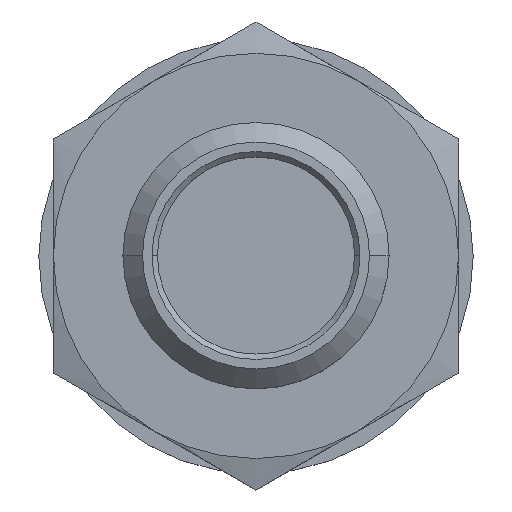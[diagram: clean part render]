
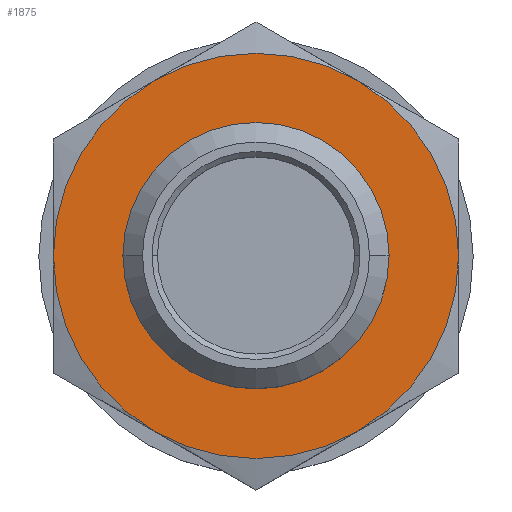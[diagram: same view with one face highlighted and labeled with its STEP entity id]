
A CAD part, top view. The second image highlights one B-rep face of the part: STEP entity #1875.
In plain terms, the highlighted planar face has unit normal (0, 0, 1).
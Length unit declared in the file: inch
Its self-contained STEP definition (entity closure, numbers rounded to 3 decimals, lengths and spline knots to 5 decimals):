
#56 = CARTESIAN_POINT ( 'NONE',  ( -0.105, 0., -0.235 ) ) ;
#79 = AXIS2_PLACEMENT_3D ( 'NONE', #4641, #1681, #5094 ) ;
#420 = EDGE_CURVE ( 'NONE', #5427, #1840, #4870, .T. ) ;
#425 = DIRECTION ( 'NONE',  ( 1., 0., 0. ) ) ;
#476 = DIRECTION ( 'NONE',  ( 0., 0., 1. ) ) ;
#489 = CARTESIAN_POINT ( 'NONE',  ( -0.09375, 0.16238, -0.235 ) ) ;
#500 = AXIS2_PLACEMENT_3D ( 'NONE', #4077, #1067, #4549 ) ;
#562 = CARTESIAN_POINT ( 'NONE',  ( -0.09375, -0.16238, -0.235 ) ) ;
#916 = EDGE_CURVE ( 'NONE', #6058, #2145, #5661, .T. ) ;
#919 = CIRCLE ( 'NONE', #2762, 0.1875 ) ;
#1026 = ORIENTED_EDGE ( 'NONE', *, *, #3295, .T. ) ;
#1060 = CARTESIAN_POINT ( 'NONE',  ( 0.105, 0., -0.235 ) ) ;
#1067 = DIRECTION ( 'NONE',  ( 0., 0., 1. ) ) ;
#1089 = ORIENTED_EDGE ( 'NONE', *, *, #2961, .F. ) ;
#1092 = ORIENTED_EDGE ( 'NONE', *, *, #3075, .T. ) ;
#1256 = CARTESIAN_POINT ( 'NONE',  ( 0., 0., -0.235 ) ) ;
#1390 = VERTEX_POINT ( 'NONE', #2877 ) ;
#1478 = CARTESIAN_POINT ( 'NONE',  ( -0.1875, 0., -0.235 ) ) ;
#1493 = CARTESIAN_POINT ( 'NONE',  ( 0., 0., -0.235 ) ) ;
#1538 = EDGE_LOOP ( 'NONE', ( #4363, #5060, #1092, #4490, #1026, #2965 ) ) ;
#1577 = EDGE_LOOP ( 'NONE', ( #5052, #1089 ) ) ;
#1681 = DIRECTION ( 'NONE',  ( 0., 0., 1. ) ) ;
#1767 = DIRECTION ( 'NONE',  ( 1., 0., 0. ) ) ;
#1840 = VERTEX_POINT ( 'NONE', #56 ) ;
#1863 = DIRECTION ( 'NONE',  ( 0., 0., 1. ) ) ;
#1875 = ADVANCED_FACE ( 'NONE', ( #5002, #3588 ), #6099, .F. ) ;
#2001 = DIRECTION ( 'NONE',  ( 1., 0., 0. ) ) ;
#2145 = VERTEX_POINT ( 'NONE', #489 ) ;
#2249 = DIRECTION ( 'NONE',  ( 0., 0., -1. ) ) ;
#2297 = CIRCLE ( 'NONE', #3729, 0.1875 ) ;
#2405 = DIRECTION ( 'NONE',  ( 0., 0., 1. ) ) ;
#2471 = CARTESIAN_POINT ( 'NONE',  ( 0.09375, -0.16238, -0.235 ) ) ;
#2536 = CIRCLE ( 'NONE', #3215, 0.1875 ) ;
#2762 = AXIS2_PLACEMENT_3D ( 'NONE', #4807, #1863, #5271 ) ;
#2877 = CARTESIAN_POINT ( 'NONE',  ( 0.1875, 0., -0.235 ) ) ;
#2954 = AXIS2_PLACEMENT_3D ( 'NONE', #1493, #4920, #2001 ) ;
#2961 = EDGE_CURVE ( 'NONE', #1840, #5427, #6377, .T. ) ;
#2965 = ORIENTED_EDGE ( 'NONE', *, *, #916, .T. ) ;
#2975 = VERTEX_POINT ( 'NONE', #2471 ) ;
#2991 = EDGE_CURVE ( 'NONE', #2145, #4712, #3842, .T. ) ;
#3075 = EDGE_CURVE ( 'NONE', #5583, #2975, #2536, .T. ) ;
#3215 = AXIS2_PLACEMENT_3D ( 'NONE', #3551, #476, #4036 ) ;
#3295 = EDGE_CURVE ( 'NONE', #1390, #6058, #4658, .T. ) ;
#3458 = EDGE_CURVE ( 'NONE', #2975, #1390, #919, .T. ) ;
#3513 = DIRECTION ( 'NONE',  ( 0., 0., 1. ) ) ;
#3551 = CARTESIAN_POINT ( 'NONE',  ( 0., 0., -0.235 ) ) ;
#3588 = FACE_OUTER_BOUND ( 'NONE', #1538, .T. ) ;
#3648 = EDGE_CURVE ( 'NONE', #4712, #5583, #2297, .T. ) ;
#3655 = AXIS2_PLACEMENT_3D ( 'NONE', #6376, #3513, #425 ) ;
#3729 = AXIS2_PLACEMENT_3D ( 'NONE', #5284, #2405, #5766 ) ;
#3842 = CIRCLE ( 'NONE', #3655, 0.1875 ) ;
#4036 = DIRECTION ( 'NONE',  ( 1., 0., 0. ) ) ;
#4077 = CARTESIAN_POINT ( 'NONE',  ( 0., 0., -0.235 ) ) ;
#4342 = AXIS2_PLACEMENT_3D ( 'NONE', #5139, #2249, #5617 ) ;
#4363 = ORIENTED_EDGE ( 'NONE', *, *, #2991, .T. ) ;
#4490 = ORIENTED_EDGE ( 'NONE', *, *, #3458, .T. ) ;
#4549 = DIRECTION ( 'NONE',  ( 1., 0., 0. ) ) ;
#4641 = CARTESIAN_POINT ( 'NONE',  ( 0., 0., -0.235 ) ) ;
#4658 = CIRCLE ( 'NONE', #79, 0.1875 ) ;
#4712 = VERTEX_POINT ( 'NONE', #1478 ) ;
#4727 = DIRECTION ( 'NONE',  ( 0., 0., 1. ) ) ;
#4807 = CARTESIAN_POINT ( 'NONE',  ( 0., 0., -0.235 ) ) ;
#4870 = CIRCLE ( 'NONE', #500, 0.105 ) ;
#4920 = DIRECTION ( 'NONE',  ( 0., 0., 1. ) ) ;
#5002 = FACE_BOUND ( 'NONE', #1577, .T. ) ;
#5052 = ORIENTED_EDGE ( 'NONE', *, *, #420, .F. ) ;
#5060 = ORIENTED_EDGE ( 'NONE', *, *, #3648, .T. ) ;
#5094 = DIRECTION ( 'NONE',  ( 1., 0., 0. ) ) ;
#5139 = CARTESIAN_POINT ( 'NONE',  ( 0., 0.105, -0.235 ) ) ;
#5271 = DIRECTION ( 'NONE',  ( 1., 0., 0. ) ) ;
#5284 = CARTESIAN_POINT ( 'NONE',  ( 0., 0., -0.235 ) ) ;
#5427 = VERTEX_POINT ( 'NONE', #1060 ) ;
#5583 = VERTEX_POINT ( 'NONE', #562 ) ;
#5617 = DIRECTION ( 'NONE',  ( -1., 0., 0. ) ) ;
#5661 = CIRCLE ( 'NONE', #5994, 0.1875 ) ;
#5766 = DIRECTION ( 'NONE',  ( 1., 0., 0. ) ) ;
#5789 = CARTESIAN_POINT ( 'NONE',  ( 0.09375, 0.16238, -0.235 ) ) ;
#5994 = AXIS2_PLACEMENT_3D ( 'NONE', #1256, #4727, #1767 ) ;
#6058 = VERTEX_POINT ( 'NONE', #5789 ) ;
#6099 = PLANE ( 'NONE',  #4342 ) ;
#6376 = CARTESIAN_POINT ( 'NONE',  ( 0., 0., -0.235 ) ) ;
#6377 = CIRCLE ( 'NONE', #2954, 0.105 ) ;
